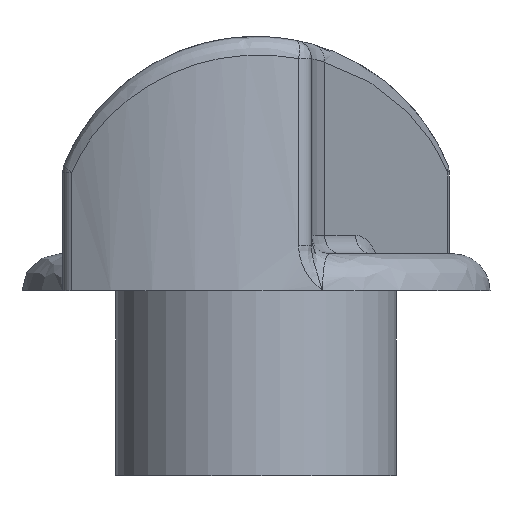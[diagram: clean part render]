
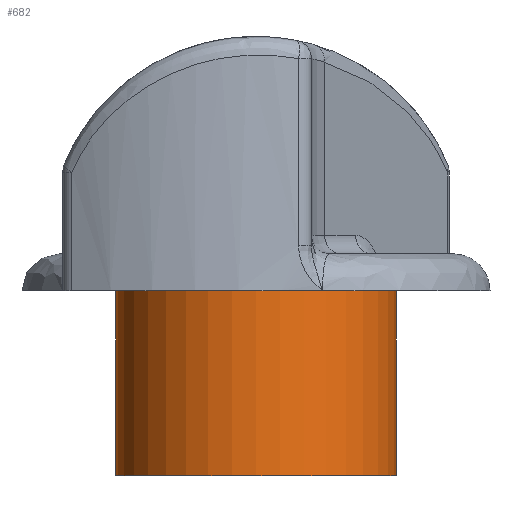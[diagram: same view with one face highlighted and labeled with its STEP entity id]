
A CAD part, front view. The second image highlights one B-rep face of the part: STEP entity #682.
In plain terms, the highlighted cylindrical face has radius 7.6 mm (diameter 15.2 mm), a partial arc.
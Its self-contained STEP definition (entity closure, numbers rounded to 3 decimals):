
#1 = ORIENTED_EDGE ( 'NONE', *, *, #420, .F. ) ;
#178 = EDGE_CURVE ( 'NONE', #278, #191, #343, .T. ) ;
#191 = VERTEX_POINT ( 'NONE', #1931 ) ;
#209 = CARTESIAN_POINT ( 'NONE',  ( -7.6, 0., -10. ) ) ;
#221 = VECTOR ( 'NONE', #1480, 1000. ) ;
#273 = AXIS2_PLACEMENT_3D ( 'NONE', #2549, #2576, #2591 ) ;
#278 = VERTEX_POINT ( 'NONE', #735 ) ;
#282 = CARTESIAN_POINT ( 'NONE',  ( 0., 0., -5. ) ) ;
#343 = LINE ( 'NONE', #830, #221 ) ;
#420 = EDGE_CURVE ( 'NONE', #278, #1033, #2163, .T. ) ;
#466 = DIRECTION ( 'NONE',  ( 1., 0., 0. ) ) ;
#574 = CARTESIAN_POINT ( 'NONE',  ( 0., 0., -10. ) ) ;
#682 = ADVANCED_FACE ( 'NONE', ( #1502 ), #1361, .T. ) ;
#735 = CARTESIAN_POINT ( 'NONE',  ( 7.6, 0., -10. ) ) ;
#783 = DIRECTION ( 'NONE',  ( 0., 0., -1. ) ) ;
#830 = CARTESIAN_POINT ( 'NONE',  ( 7.6, 0., -5. ) ) ;
#934 = ORIENTED_EDGE ( 'NONE', *, *, #1528, .F. ) ;
#1033 = VERTEX_POINT ( 'NONE', #209 ) ;
#1089 = AXIS2_PLACEMENT_3D ( 'NONE', #574, #783, #2220 ) ;
#1256 = CIRCLE ( 'NONE', #273, 7.6 ) ;
#1361 = CYLINDRICAL_SURFACE ( 'NONE', #1741, 7.6 ) ;
#1385 = DIRECTION ( 'NONE',  ( 0., 0., 1. ) ) ;
#1414 = VECTOR ( 'NONE', #1901, 1000. ) ;
#1480 = DIRECTION ( 'NONE',  ( 0., 0., 1. ) ) ;
#1496 = LINE ( 'NONE', #1827, #1414 ) ;
#1502 = FACE_OUTER_BOUND ( 'NONE', #2075, .T. ) ;
#1528 = EDGE_CURVE ( 'NONE', #1033, #1843, #1496, .T. ) ;
#1660 = EDGE_CURVE ( 'NONE', #191, #1843, #1256, .T. ) ;
#1741 = AXIS2_PLACEMENT_3D ( 'NONE', #282, #1385, #466 ) ;
#1827 = CARTESIAN_POINT ( 'NONE',  ( -7.6, 0., -5. ) ) ;
#1843 = VERTEX_POINT ( 'NONE', #2152 ) ;
#1901 = DIRECTION ( 'NONE',  ( 0., 0., 1. ) ) ;
#1931 = CARTESIAN_POINT ( 'NONE',  ( 7.6, 0., 0. ) ) ;
#2075 = EDGE_LOOP ( 'NONE', ( #934, #1, #2483, #2362 ) ) ;
#2152 = CARTESIAN_POINT ( 'NONE',  ( -7.6, 0., 0. ) ) ;
#2163 = CIRCLE ( 'NONE', #1089, 7.6 ) ;
#2220 = DIRECTION ( 'NONE',  ( -1., 0., 0. ) ) ;
#2362 = ORIENTED_EDGE ( 'NONE', *, *, #1660, .T. ) ;
#2483 = ORIENTED_EDGE ( 'NONE', *, *, #178, .T. ) ;
#2549 = CARTESIAN_POINT ( 'NONE',  ( 0., 0., 0. ) ) ;
#2576 = DIRECTION ( 'NONE',  ( 0., 0., -1. ) ) ;
#2591 = DIRECTION ( 'NONE',  ( 1., 0., 0. ) ) ;
